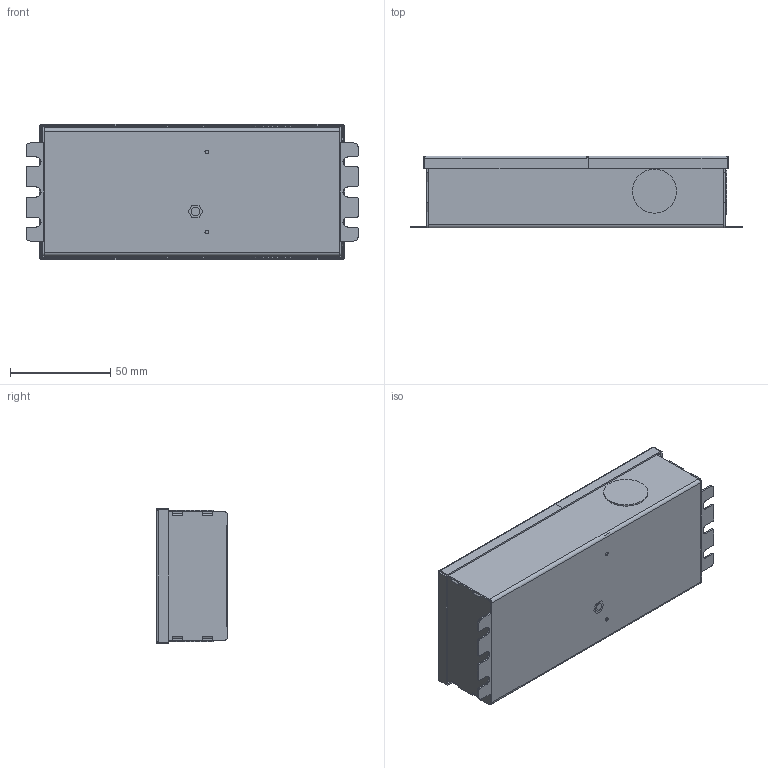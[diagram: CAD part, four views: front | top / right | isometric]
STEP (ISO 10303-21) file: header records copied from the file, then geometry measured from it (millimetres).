
FILE_DESCRIPTION((''),'2;1');
FILE_NAME('ULV36_CASE_WET_ASM','2025-08-13T14:42:47',('Administrator'),(''),'CREO PARAMETRIC BY PTC INC, 2020053','CREO PARAMETRIC BY PTC INC, 2020053','');
FILE_SCHEMA(('CONFIG_CONTROL_DESIGN','SHAPE_APPEARANCE_LAYERS_GROUPS'));
Products named in the file (10): ULV36_BOTTOM_WET_5_1; ULV36_BOTTOM_WET_5_2; ULV36_BOTTOM_WET_5_3; ULV36_BOTTOM_WET_5_ASM; ULV36_BOTTOM2_WET_ASM; ULV36_TOP_WET; ULV_TOP2_WET; ULV36_GEBAN_WET; LUOZHU-M3_2; ULV36_CASE_WET_ASM
Assembly tree (9 placements, depth 4):
  ULV36_CASE_WET_ASM
    ULV36_BOTTOM2_WET_ASM
      ULV36_BOTTOM_WET_5_ASM
        ULV36_BOTTOM_WET_5_1
        ULV36_BOTTOM_WET_5_2
        ULV36_BOTTOM_WET_5_3
    ULV36_TOP_WET
    ULV_TOP2_WET
    ULV36_GEBAN_WET
    LUOZHU-M3_2
Bounding box: 165.8 x 35.8 x 67.6 mm (x, y, z)
Volume: 31552.6 mm3; surface area: 83173.4 mm2
Topology: 11 solids, 11 shells, 615 faces, 1536 edges, 961 vertices
Faces by surface type: plane 354, cylinder 211, bspline 34, cone 8, torus 8
Entity records: 29786 total; most frequent: CARTESIAN_POINT 5590, DIRECTION 3075, ORIENTED_EDGE 3072, PRESENTATION_STYLE_ASSIGNMENT 2162, STYLED_ITEM 2162, CURVE_STYLE 1536, EDGE_CURVE 1536, VECTOR 1041
